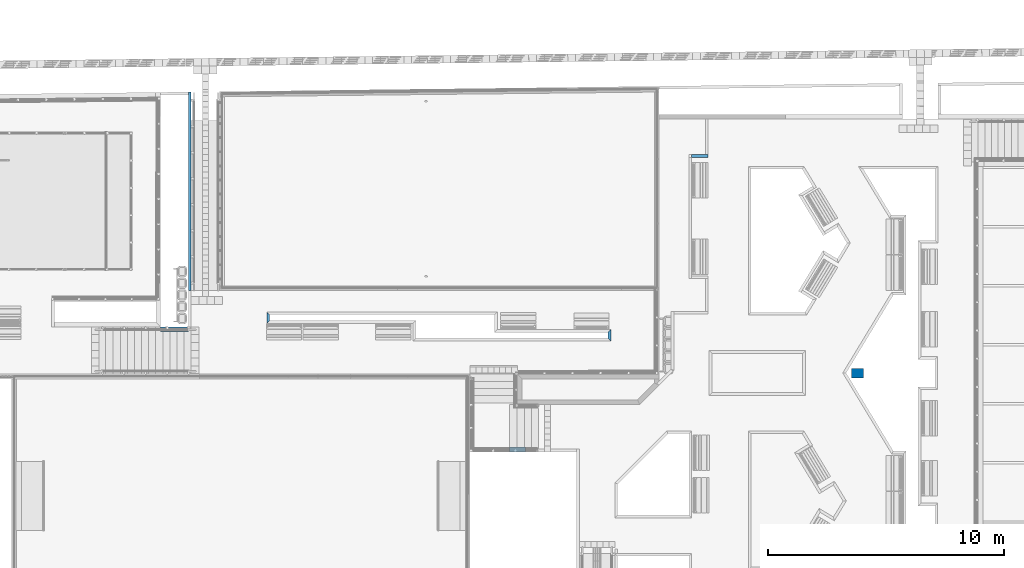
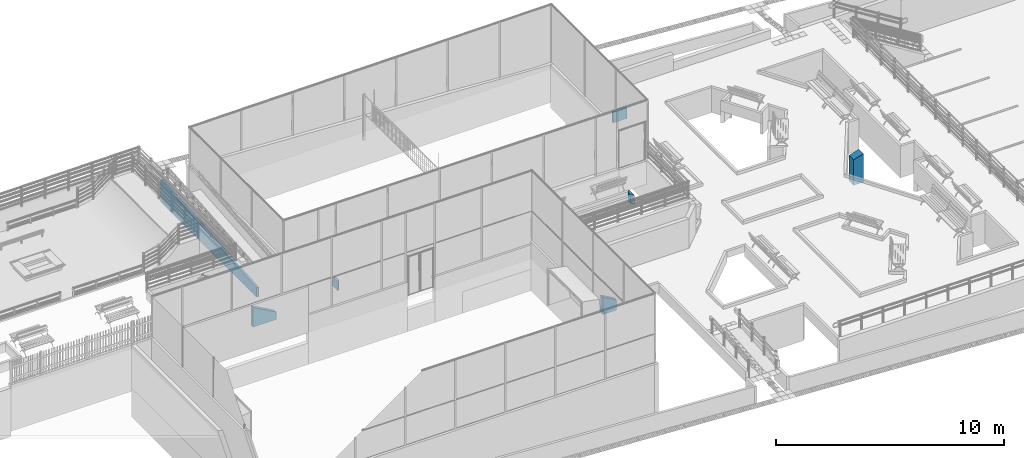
# One storey, part 21 of 237: 7 walls.
"""IFC2X3 building model written with IfcOpenShell, lengths in millimetres."""

from ifc_helpers import new_model, entity, si_unit, converted_unit, derived_unit, money_unit, direction, frame, origin_with_axes, place, context, subcontext, project, spatial, polyline, outline, extrude, faceted_brep, material, layer, layer_set, layer_usage, type_object, element, save


model = new_model("IFC2X3")

# Units and contexts
model_context = context("Model", 3, precision=0.01, world=origin_with_axes(), true_north=direction((0.0, 1.0)))
body_context = subcontext(model_context, "Body", "Model", "MODEL_VIEW")
ifc_project = project(units=[si_unit("LENGTHUNIT", "METRE", prefix="MILLI"), si_unit("AREAUNIT", "SQUARE_METRE"), si_unit("VOLUMEUNIT", "CUBIC_METRE"), converted_unit("PLANEANGLEUNIT", "DEGREE", entity("IfcPlaneAngleMeasure", 0.0174532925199), si_unit("PLANEANGLEUNIT", "RADIAN"), dimensions=[0, 0, 0, 0, 0, 0, 0]), money_unit("USD"), converted_unit("TIMEUNIT", "Year", entity("IfcTimeMeasure", 31556926.0), si_unit("TIMEUNIT", "SECOND"), dimensions=[0, 0, 1, 0, 0, 0, 0]), si_unit("MASSUNIT", "GRAM", prefix="KILO"), si_unit("THERMODYNAMICTEMPERATUREUNIT", "DEGREE_CELSIUS"), si_unit("LUMINOUSINTENSITYUNIT", "LUMEN"), si_unit("ENERGYUNIT", "JOULE", prefix="MEGA"), derived_unit("THERMALCONDUCTANCEUNIT", [(si_unit("POWERUNIT", "WATT"), 1), (si_unit("LENGTHUNIT", "METRE"), -1), (si_unit("THERMODYNAMICTEMPERATUREUNIT", "KELVIN"), -1)]), derived_unit("SPECIFICHEATCAPACITYUNIT", [(si_unit("ENERGYUNIT", "JOULE"), 1), (si_unit("MASSUNIT", "GRAM", prefix="KILO"), -1), (si_unit("THERMODYNAMICTEMPERATUREUNIT", "KELVIN"), -1)]), derived_unit("MASSDENSITYUNIT", [(si_unit("MASSUNIT", "GRAM", prefix="KILO"), 1), (si_unit("VOLUMEUNIT", "CUBIC_METRE"), -1)])], contexts=[model_context])

# Site, building, storey
site_placement = place(None, origin_with_axes())
site = spatial("IfcSite", under=ifc_project, at=site_placement, Name="Local", CompositionType="ELEMENT")
building_placement = place(site_placement, origin_with_axes())
building = spatial("IfcBuilding", under=site, at=building_placement, Name="Construção", CompositionType="ELEMENT")
storey_placement = place(building_placement, origin_with_axes())
storey = spatial("IfcBuildingStorey", under=building, at=storey_placement, Name="Pavimento Térreo", CompositionType="ELEMENT", Elevation=0.0)

# Walls
ifc_material = material(Name="Bloco de Concreto - Estrutural")
ifc_layer = layer(ifc_material, 120.0, ventilated="UNKNOWN")
ifc_layer_set = layer_set([ifc_layer], Name="Bloco de Concreto - Estrutural 120")
ifc_layer_usage_1 = layer_usage(ifc_layer_set, "AXIS2", "NEGATIVE", 0.0)
wall_type_1 = type_object("IfcWallType", Name="Bloco de Concreto - Estrutural 120", PredefinedType="NOTDEFINED")
wall_1_placement = place(storey_placement, frame((88839.4867831, 32827.8591344, -5410.24389814), z_axis=(0.0, 0.0, 1.0), x_axis=(-1.0, 0.0, 0.0)))
element("IfcWallStandardCase", 1, at=wall_1_placement, inside=storey, type_object=wall_type_1, material=ifc_layer_usage_1, Name="Parede-083", context=body_context, shape_type="SweptSolid", body=[
    extrude(outline(polyline([(0.0, -120.0), (702.961456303, -120.0), (702.961456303, 0.0), (0.0, 0.0), (0.0, -120.0)])), origin_with_axes(), (0.0, 0.0, 1.0), 569.243898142),
])
ifc_layer_usage_2 = layer_usage(ifc_layer_set, "AXIS2", "NEGATIVE", 0.0)
wall_2_placement = place(storey_placement, frame((70282.4437963, 26172.3083774, -3852.41502407), z_axis=(0.0, 0.0, 1.0), x_axis=(-1.18562514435e-09, -1.0, 0.0)))
element("IfcWallStandardCase", 2, at=wall_2_placement, inside=storey, type_object=wall_type_1, material=ifc_layer_usage_2, Name="Parede-087", context=body_context, shape_type="SweptSolid", body=[
    extrude(outline(polyline([(-119.999999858, -120.0), (365.100880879, -120.0), (245.100881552, 0.0), (0.0, 0.0), (-119.999999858, -120.0)])), origin_with_axes(), (0.0, 0.0, 1.0), 495.357755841),
])
ifc_layer_usage_3 = layer_usage(ifc_layer_set, "AXIS2", "NEGATIVE", 0.0)
wall_3_placement = place(storey_placement, frame((84717.0535548, 25422.3083774, -3852.41502407), z_axis=(0.0, 0.0, 1.0), x_axis=(-5.11538827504e-09, -1.0, 0.0)))
element("IfcWallStandardCase", 3, at=wall_3_placement, inside=storey, type_object=wall_type_1, material=ifc_layer_usage_3, Name="Parede-086", context=body_context, shape_type="SweptSolid", body=[
    extrude(outline(polyline([(6.13844974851e-07, -120.0), (245.100957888, -120.0), (365.100957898, 0.0), (-120.0, 0.0), (6.13844974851e-07, -120.0)])), origin_with_axes(), (0.0, 0.0, 1.0), 495.357755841),
])
wall_type_2 = type_object("IfcWallType", Name="Bloco de Concreto - Estrutural", PredefinedType="NOTDEFINED")
wall_4_placement = place(storey_placement, origin_with_axes())
element("IfcWall", 4, at=wall_4_placement, inside=storey, type_object=wall_type_2, material=ifc_material, Name="Parede-088", context=body_context, shape_type="Brep", body=[
    faceted_brep([(66842.5028921, 27192.3083888, -3357.05726823), (66842.5028921, 35595.8085695, -2672.34078917), (66842.5028921, 35597.2599054, -3852.41502407), (66842.5028921, 27192.3083888, -3852.41502407), (66962.5028921, 35595.8085695, -2672.34078917), (66962.5028921, 35597.2599054, -3852.41502407), (66962.5028921, 27192.3083888, -3852.41502407), (66962.5028921, 27192.3083888, -3357.05726823)], [[[0, 1, 2, 3]], [[1, 0, 4]], [[2, 1, 4]], [[3, 2, 5, 6]], [[0, 3, 6, 7]], [[0, 7, 4]], [[4, 5, 2]], [[4, 7, 6, 5]]]),
])
wall_5_placement = place(storey_placement, origin_with_axes())
element("IfcWall", 5, at=wall_5_placement, inside=storey, type_object=wall_type_2, material=ifc_material, Name="Parede-086", context=body_context, shape_type="Brep", body=[
    faceted_brep([(94907.1828314, 23504.5070704, -5460.37318584), (94907.1828314, 23504.5070704, -4095.4268319), (94907.1828314, 23904.5070704, -4095.4268319), (94907.1828314, 23904.5070704, -5460.37318584), (95407.1828314, 23504.5070704, -5460.37318584), (95406.835752, 23504.5070704, -3945.42723344), (95406.835752, 23904.5070704, -3945.42723344), (95407.1828314, 23904.5070704, -5460.37318584)], [[[0, 1, 2, 3]], [[1, 0, 4, 5]], [[2, 1, 5]], [[3, 2, 6, 7]], [[4, 0, 3, 7]], [[6, 5, 4]], [[6, 2, 5]], [[4, 7, 6]]]),
])
wall_6_placement = place(storey_placement, frame((-1699.99572225, 0.0197218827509, 4.64494043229e-06), z_axis=(0.0, 0.0, 1.0), x_axis=(1.0, 0.0, 0.0)))
element("IfcWall", 6, at=wall_6_placement, inside=storey, type_object=wall_type_2, material=ifc_material, Name="Parede-088", context=body_context, shape_type="Brep", body=[
    faceted_brep([(82128.0426151, 20372.3993887, -5401.15866721), (82128.0426151, 20372.3993887, -4465.39060156), (82128.0426151, 20572.3993887, -4465.39060156), (82128.0426151, 20572.3993887, -5401.15866721), (82816.6833252, 20372.3993887, -5401.15866721), (82816.6833252, 20372.3993887, -4847.96877379), (82816.6833252, 20572.3993887, -4847.96877379), (82816.6833252, 20572.3993887, -5401.15866721)], [[[0, 1, 2, 3]], [[1, 0, 4, 5]], [[2, 1, 5]], [[2, 6, 7, 3]], [[4, 0, 3, 7]], [[6, 5, 4, 7]], [[6, 2, 5]]]),
])
wall_7_placement = place(storey_placement, frame((0.0, -200.0, 0.0), z_axis=(0.0, 0.0, 1.0), x_axis=(1.0, 0.0, 0.0)))
element("IfcWall", 7, at=wall_7_placement, inside=storey, type_object=wall_type_2, material=ifc_material, Name="Parede-090", context=body_context, shape_type="Brep", body=[
    faceted_brep([(66840.2263828, 25657.7253191, -3986.62815507), (65667.853379, 25657.7253191, -3986.62815507), (65667.853379, 25857.7253191, -3986.62815507), (66840.2263828, 25857.7253191, -3986.62815507), (65667.853379, 25657.7253191, -2940.84938674), (66842.5028984, 25657.7253191, -3588.41255307), (65667.853379, 25857.7253191, -2940.84938674), (66842.5028984, 25857.7253191, -3588.41255307)], [[[0, 1, 2, 3]], [[4, 1, 0, 5]], [[4, 6, 2, 1]], [[2, 6, 7, 3]], [[0, 3, 7]], [[5, 0, 7]], [[6, 4, 5]], [[7, 6, 5]]]),
])

save(model, "model.ifc")
